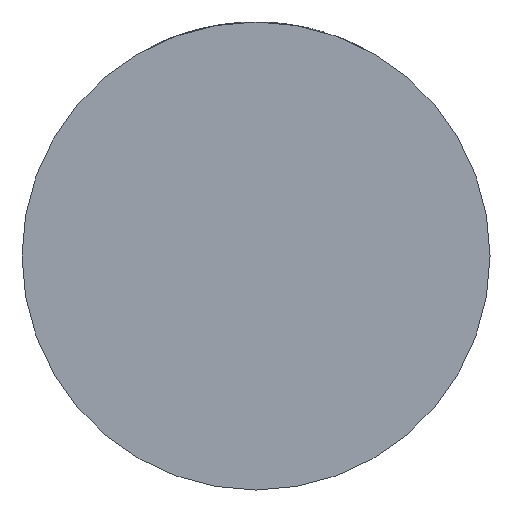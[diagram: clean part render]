
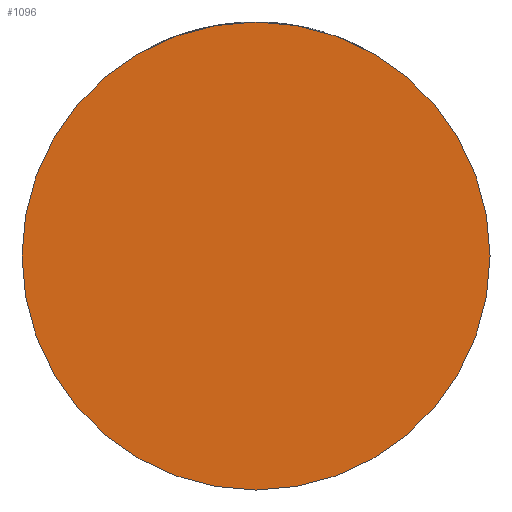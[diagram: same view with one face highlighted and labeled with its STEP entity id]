
A CAD part, front view. The second image highlights one B-rep face of the part: STEP entity #1096.
In plain terms, the highlighted planar face has unit normal (0, -1, 0).
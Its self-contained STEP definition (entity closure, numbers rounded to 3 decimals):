
#234 = ORIENTED_EDGE ( 'NONE', *, *, #267, .T. ) ;
#267 = EDGE_CURVE ( 'NONE', #3680, #506, #1245, .T. ) ;
#349 = FACE_OUTER_BOUND ( 'NONE', #1049, .T. ) ;
#506 = VERTEX_POINT ( 'NONE', #2687 ) ;
#691 = CIRCLE ( 'NONE', #1442, 74. ) ;
#958 = ORIENTED_EDGE ( 'NONE', *, *, #2900, .T. ) ;
#1049 = EDGE_LOOP ( 'NONE', ( #958, #234 ) ) ;
#1052 = DIRECTION ( 'NONE',  ( 1., 0., 0. ) ) ;
#1096 = ADVANCED_FACE ( 'NONE', ( #349 ), #1454, .T. ) ;
#1245 = CIRCLE ( 'NONE', #1832, 74. ) ;
#1301 = DIRECTION ( 'NONE',  ( 1., 0., 0. ) ) ;
#1387 = DIRECTION ( 'NONE',  ( 1., 0., 0. ) ) ;
#1428 = DIRECTION ( 'NONE',  ( 0., -1., 0. ) ) ;
#1442 = AXIS2_PLACEMENT_3D ( 'NONE', #3778, #4541, #1301 ) ;
#1454 = PLANE ( 'NONE',  #3720 ) ;
#1796 = CARTESIAN_POINT ( 'NONE',  ( 0., -60., 0. ) ) ;
#1816 = DIRECTION ( 'NONE',  ( 0., -1., 0. ) ) ;
#1832 = AXIS2_PLACEMENT_3D ( 'NONE', #2462, #1816, #1052 ) ;
#2462 = CARTESIAN_POINT ( 'NONE',  ( 0., -60., 0. ) ) ;
#2687 = CARTESIAN_POINT ( 'NONE',  ( -74., -60., 0. ) ) ;
#2900 = EDGE_CURVE ( 'NONE', #506, #3680, #691, .T. ) ;
#3660 = CARTESIAN_POINT ( 'NONE',  ( 74., -60., 0. ) ) ;
#3680 = VERTEX_POINT ( 'NONE', #3660 ) ;
#3720 = AXIS2_PLACEMENT_3D ( 'NONE', #1796, #1428, #1387 ) ;
#3778 = CARTESIAN_POINT ( 'NONE',  ( 0., -60., 0. ) ) ;
#4541 = DIRECTION ( 'NONE',  ( 0., -1., 0. ) ) ;
